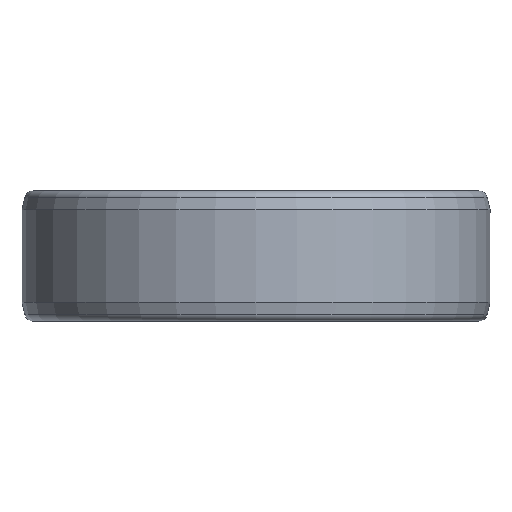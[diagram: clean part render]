
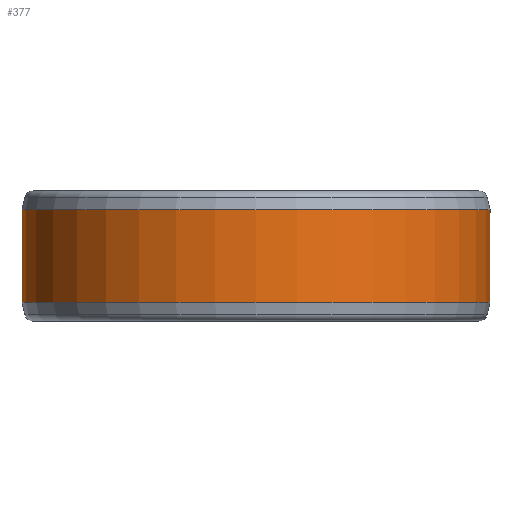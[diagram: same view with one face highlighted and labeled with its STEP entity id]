
A CAD part, front view. The second image highlights one B-rep face of the part: STEP entity #377.
In plain terms, the highlighted cylindrical face has radius 26.979 mm (diameter 53.958 mm), a full revolution.
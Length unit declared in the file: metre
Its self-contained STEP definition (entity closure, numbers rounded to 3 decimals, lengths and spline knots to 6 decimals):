
#10=CYLINDRICAL_SURFACE('',#484,0.026979);
#82=ORIENTED_EDGE('',*,*,#133,.F.);
#83=ORIENTED_EDGE('',*,*,#134,.T.);
#133=EDGE_CURVE('',#167,#167,#201,.T.);
#134=EDGE_CURVE('',#168,#168,#202,.T.);
#167=VERTEX_POINT('',#721);
#168=VERTEX_POINT('',#724);
#201=CIRCLE('',#483,0.026979);
#202=CIRCLE('',#485,0.026979);
#252=EDGE_LOOP('',(#82));
#253=EDGE_LOOP('',(#83));
#320=FACE_BOUND('',#252,.T.);
#321=FACE_BOUND('',#253,.T.);
#377=ADVANCED_FACE('',(#320,#321),#10,.T.);
#483=AXIS2_PLACEMENT_3D('',#720,#598,#599);
#484=AXIS2_PLACEMENT_3D('',#722,#600,#601);
#485=AXIS2_PLACEMENT_3D('',#723,#602,#603);
#598=DIRECTION('',(0.,0.,-1.));
#599=DIRECTION('',(-1.,0.,0.));
#600=DIRECTION('',(0.,0.,-1.));
#601=DIRECTION('',(-1.,0.,0.));
#602=DIRECTION('',(0.,0.,-1.));
#603=DIRECTION('',(-1.,0.,0.));
#720=CARTESIAN_POINT('',(0.,0.,-0.005329));
#721=CARTESIAN_POINT('',(-0.026979,0.,-0.005329));
#722=CARTESIAN_POINT('',(0.,0.,0.00375));
#723=CARTESIAN_POINT('',(0.,0.,0.005329));
#724=CARTESIAN_POINT('',(-0.026979,0.,0.005329));
